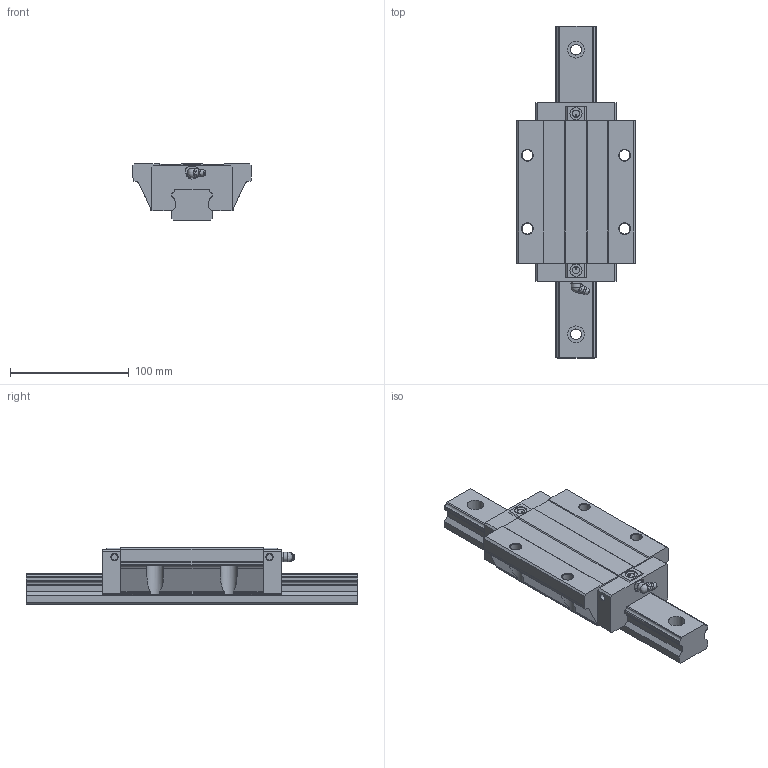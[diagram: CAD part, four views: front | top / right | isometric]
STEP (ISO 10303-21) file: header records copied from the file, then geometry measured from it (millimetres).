
FILE_DESCRIPTION(/* description */ (''),/* implementation_level */ '2;1');
FILE_NAME(/* name */ 'SME35-LEA',/* time_stamp */ '2008-10-06T10:31:07+08:00',/* author */ (''),/* organization */ (''),/* preprocessor_version */ 'ST-DEVELOPER v11',/* originating_system */ 'UGS - NX 5.0',/* authorisation */ '');
FILE_SCHEMA (('AUTOMOTIVE_DESIGN { 1 0 10303 214 1 1 1 1 }'));
Length unit declared in the file: millimetre
Products named in the file (1): jillBD1Calmv
Bounding box: 100 x 280 x 48 mm (x, y, z)
Volume: 618829.2 mm3; surface area: 91588.4 mm2
Topology: 3 solids, 3 shells, 227 faces, 599 edges, 394 vertices
Faces by surface type: plane 141, cylinder 65, cone 9, torus 7, sphere 4, bspline 1
Full cylindrical faces by diameter (mm): 5.2 x4, 6 x2, 6.5 x2, 8 x1, 9 x8, 10.2 x2, 14 x4
Entity records: 7193 total; most frequent: CARTESIAN_POINT 1402, DIRECTION 1138, ORIENTED_EDGE 1098, EDGE_CURVE 549, AXIS2_PLACEMENT_3D 388, VERTEX_POINT 382, LINE 362, VECTOR 362
